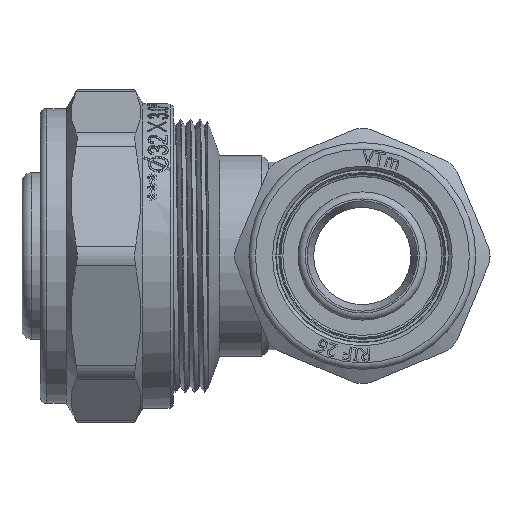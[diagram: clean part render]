
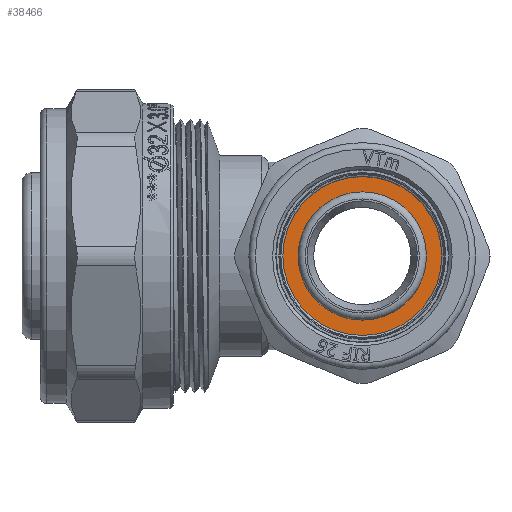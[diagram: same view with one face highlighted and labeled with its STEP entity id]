
A CAD part, left-side view. The second image highlights one B-rep face of the part: STEP entity #38466.
In plain terms, the highlighted planar face has unit normal (-1, 0, 0).
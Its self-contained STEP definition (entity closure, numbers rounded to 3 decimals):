
#340=FACE_BOUND('',#6278,.T.);
#2032=PLANE('',#40152);
#4057=FACE_OUTER_BOUND('',#6277,.T.);
#6277=EDGE_LOOP('',(#35889,#35890));
#6278=EDGE_LOOP('',(#35891,#35892));
#7079=CIRCLE('',#40153,13.1);
#7080=CIRCLE('',#40154,13.1);
#7081=CIRCLE('',#40155,9.9);
#7082=CIRCLE('',#40156,9.9);
#18497=VERTEX_POINT('',#90153);
#18498=VERTEX_POINT('',#90154);
#18499=VERTEX_POINT('',#90157);
#18500=VERTEX_POINT('',#90158);
#24324=EDGE_CURVE('',#18497,#18498,#7079,.T.);
#24325=EDGE_CURVE('',#18498,#18497,#7080,.T.);
#24326=EDGE_CURVE('',#18499,#18500,#7081,.T.);
#24327=EDGE_CURVE('',#18500,#18499,#7082,.T.);
#35889=ORIENTED_EDGE('',*,*,#24324,.T.);
#35890=ORIENTED_EDGE('',*,*,#24325,.T.);
#35891=ORIENTED_EDGE('',*,*,#24326,.F.);
#35892=ORIENTED_EDGE('',*,*,#24327,.F.);
#38466=ADVANCED_FACE('',(#4057,#340),#2032,.T.);
#40152=AXIS2_PLACEMENT_3D('',#90152,#45998,#45999);
#40153=AXIS2_PLACEMENT_3D('',#90155,#46000,#46001);
#40154=AXIS2_PLACEMENT_3D('',#90156,#46002,#46003);
#40155=AXIS2_PLACEMENT_3D('',#90159,#46004,#46005);
#40156=AXIS2_PLACEMENT_3D('',#90160,#46006,#46007);
#45998=DIRECTION('center_axis',(-1.,0.,0.));
#45999=DIRECTION('ref_axis',(0.,0.,1.));
#46000=DIRECTION('center_axis',(-1.,0.,0.));
#46001=DIRECTION('ref_axis',(0.,0.,1.));
#46002=DIRECTION('center_axis',(-1.,0.,0.));
#46003=DIRECTION('ref_axis',(0.,0.,1.));
#46004=DIRECTION('center_axis',(-1.,0.,0.));
#46005=DIRECTION('ref_axis',(0.,0.,1.));
#46006=DIRECTION('center_axis',(-1.,0.,0.));
#46007=DIRECTION('ref_axis',(0.,0.,1.));
#90152=CARTESIAN_POINT('Origin',(-27.,-9.9,0.));
#90153=CARTESIAN_POINT('',(-27.,-13.1,0.));
#90154=CARTESIAN_POINT('',(-27.,13.1,0.));
#90155=CARTESIAN_POINT('Origin',(-27.,0.,0.));
#90156=CARTESIAN_POINT('Origin',(-27.,0.,0.));
#90157=CARTESIAN_POINT('',(-27.,-9.9,0.));
#90158=CARTESIAN_POINT('',(-27.,9.9,0.));
#90159=CARTESIAN_POINT('Origin',(-27.,0.,0.));
#90160=CARTESIAN_POINT('Origin',(-27.,0.,0.));
